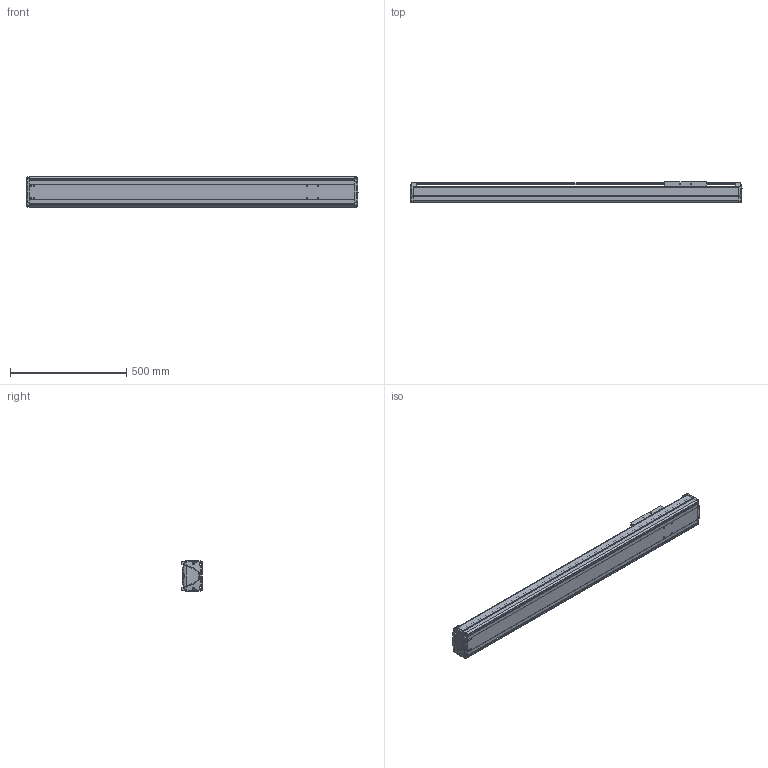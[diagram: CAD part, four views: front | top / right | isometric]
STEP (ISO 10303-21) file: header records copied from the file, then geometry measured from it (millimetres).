
FILE_DESCRIPTION((''),'2;1');
FILE_NAME('BE30E-ST-L_B-A5_IGS_PRT','2017-06-17T',(' '),(''),'PRO/ENGINEER BY PARAMETRIC TECHNOLOGY CORPORATION, 2015030','PRO/ENGINEER BY PARAMETRIC TECHNOLOGY CORPORATION, 2015030','');
FILE_SCHEMA(('CONFIG_CONTROL_DESIGN'));
Length unit declared in the file: millimetre
Products named in the file (1): BE30E-ST-L_B-A5_IGS_PRT
Bounding box: 1425 x 89.8 x 130 mm (x, y, z)
Volume: 4375146.7 mm3; surface area: 1705609.5 mm2
Topology: 3 solids, 98 shells, 1422 faces, 3846 edges, 2519 vertices
Faces by surface type: cylinder 667, plane 604, bspline 55, torus 42, cone 30, sphere 24
Entity records: 47951 total; most frequent: CARTESIAN_POINT 11991, DIRECTION 7429, ORIENTED_EDGE 7274, EDGE_CURVE 3826, AXIS2_PLACEMENT_3D 2706, VERTEX_POINT 2519, VECTOR 2017, LINE 2017
